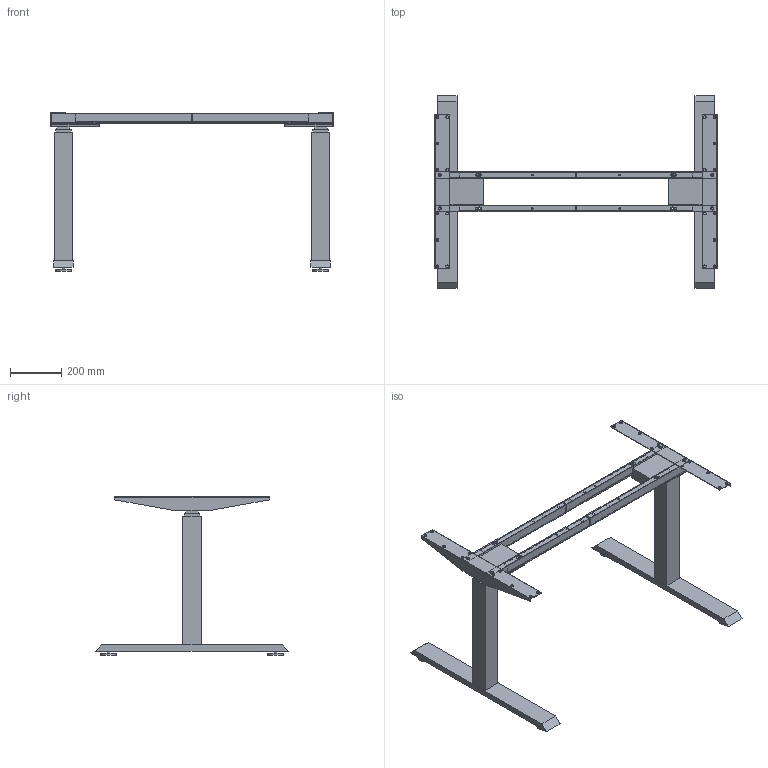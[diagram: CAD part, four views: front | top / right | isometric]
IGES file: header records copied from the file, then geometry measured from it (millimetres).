
Start section: Data from Parasolid IGES Translator 20.0.26, Copyright(c) 2006 Siemens P LM Software. All Rights Reserved.
Global section: file name: 9309754.igs; native system: By Siemens PLM Incorporated; preprocessor: XPlus GENERIC/IGES 20.0.26; author: Noname; organization: Noname; date: 20220302.131243; units: millimetre
Bounding box: 1100 x 750 x 617 mm (x, y, z)
Surface area: 1832235.9 mm2 (no closed solid volume)
Topology: 0 solids, 0 shells, 322 faces, 1500 edges, 1328 vertices
Faces by surface type: extrusion 208, revolution 114
